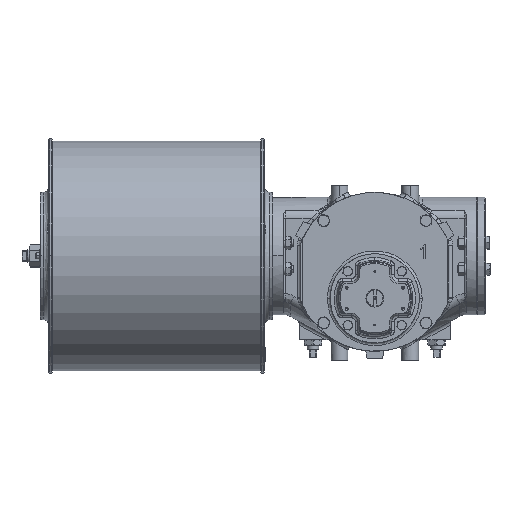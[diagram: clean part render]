
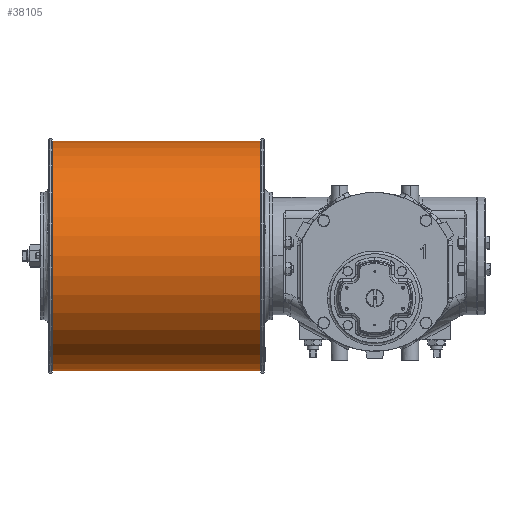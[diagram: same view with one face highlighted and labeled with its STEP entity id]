
A CAD part, top view. The second image highlights one B-rep face of the part: STEP entity #38105.
In plain terms, the highlighted cylindrical face has radius 162.5 mm (diameter 325 mm), a partial arc.
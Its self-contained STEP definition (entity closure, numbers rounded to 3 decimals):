
#3697 = LINE ( 'NONE', #62494, #3716 ) ;
#3716 = VECTOR ( 'NONE', #22490, 1000. ) ;
#4485 = ORIENTED_EDGE ( 'NONE', *, *, #27264, .T. ) ;
#5672 = CYLINDRICAL_SURFACE ( 'NONE', #22844, 162.5 ) ;
#9170 = LINE ( 'NONE', #15320, #66857 ) ;
#9777 = CARTESIAN_POINT ( 'NONE',  ( -456.5, -140., 57.5 ) ) ;
#10935 = VERTEX_POINT ( 'NONE', #9777 ) ;
#12121 = CARTESIAN_POINT ( 'NONE',  ( -161.5, -140., 57.5 ) ) ;
#12120 = CARTESIAN_POINT ( 'NONE',  ( -456.5, 22.5, 57.5 ) ) ;
#12504 = DIRECTION ( 'NONE',  ( 0., -1., 0. ) ) ;
#14888 = ORIENTED_EDGE ( 'NONE', *, *, #21930, .T. ) ;
#14909 = VERTEX_POINT ( 'NONE', #12121 ) ;
#15320 = CARTESIAN_POINT ( 'NONE',  ( -161.5, 185., 57.5 ) ) ;
#20044 = CIRCLE ( 'NONE', #40915, 162.5 ) ;
#21930 = EDGE_CURVE ( 'NONE', #52012, #10935, #42323, .T. ) ;
#22490 = DIRECTION ( 'NONE',  ( -1., 0., 0. ) ) ;
#22844 = AXIS2_PLACEMENT_3D ( 'NONE', #58717, #75618, #22973 ) ;
#22973 = DIRECTION ( 'NONE',  ( 0., -1., 0. ) ) ;
#27264 = EDGE_CURVE ( 'NONE', #14909, #62888, #20044, .T. ) ;
#34907 = FACE_OUTER_BOUND ( 'NONE', #48640, .T. ) ;
#35568 = DIRECTION ( 'NONE',  ( 1., 0., 0. ) ) ;
#35882 = CARTESIAN_POINT ( 'NONE',  ( -456.5, 185., 57.5 ) ) ;
#36957 = DIRECTION ( 'NONE',  ( -1., 0., 0. ) ) ;
#38105 = ADVANCED_FACE ( 'NONE', ( #34907 ), #5672, .T. ) ;
#38767 = DIRECTION ( 'NONE',  ( -1., 0., 0. ) ) ;
#40915 = AXIS2_PLACEMENT_3D ( 'NONE', #61126, #36957, #66146 ) ;
#42323 = CIRCLE ( 'NONE', #50897, 162.5 ) ;
#42374 = CARTESIAN_POINT ( 'NONE',  ( -161.5, 185., 57.5 ) ) ;
#48274 = ORIENTED_EDGE ( 'NONE', *, *, #53342, .F. ) ;
#48640 = EDGE_LOOP ( 'NONE', ( #4485, #51131, #14888, #48274 ) ) ;
#50897 = AXIS2_PLACEMENT_3D ( 'NONE', #12120, #35568, #12504 ) ;
#51131 = ORIENTED_EDGE ( 'NONE', *, *, #58955, .T. ) ;
#52012 = VERTEX_POINT ( 'NONE', #35882 ) ;
#53342 = EDGE_CURVE ( 'NONE', #14909, #10935, #3697, .T. ) ;
#58717 = CARTESIAN_POINT ( 'NONE',  ( -161.5, 22.5, 57.5 ) ) ;
#58955 = EDGE_CURVE ( 'NONE', #62888, #52012, #9170, .T. ) ;
#61126 = CARTESIAN_POINT ( 'NONE',  ( -161.5, 22.5, 57.5 ) ) ;
#62494 = CARTESIAN_POINT ( 'NONE',  ( -161.5, -140., 57.5 ) ) ;
#62888 = VERTEX_POINT ( 'NONE', #42374 ) ;
#66146 = DIRECTION ( 'NONE',  ( 0., -1., 0. ) ) ;
#66857 = VECTOR ( 'NONE', #38767, 1000. ) ;
#75618 = DIRECTION ( 'NONE',  ( -1., 0., 0. ) ) ;
